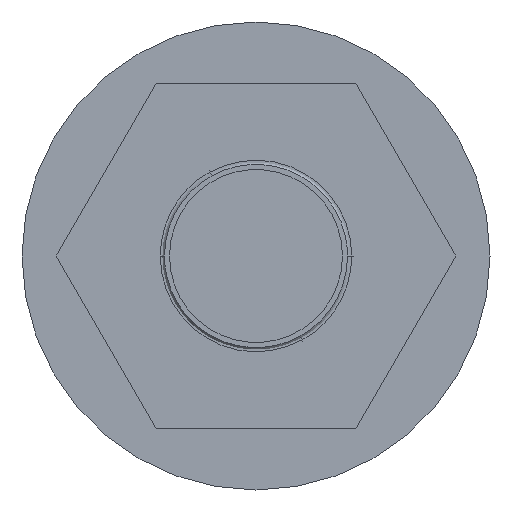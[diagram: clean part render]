
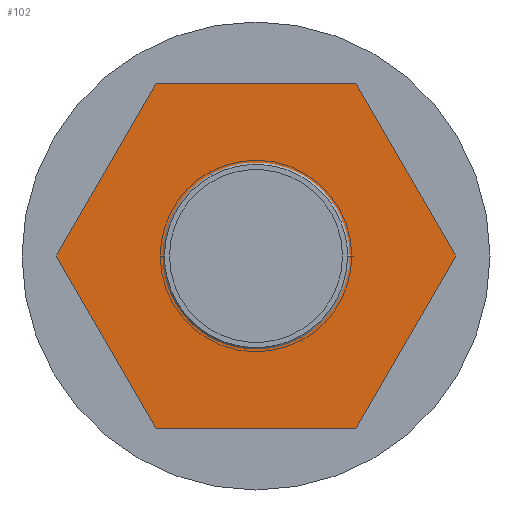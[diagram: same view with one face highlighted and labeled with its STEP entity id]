
A CAD part, front view. The second image highlights one B-rep face of the part: STEP entity #102.
In plain terms, the highlighted planar face has unit normal (0, -1, 0).
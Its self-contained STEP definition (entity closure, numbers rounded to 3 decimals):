
#102=ADVANCED_FACE('Pad.2',(#232,#233),#234,.T.);
#232=FACE_OUTER_BOUND('',#412,.T.);
#233=FACE_BOUND('',#413,.T.);
#234=PLANE('',#414);
#412=EDGE_LOOP('',(#594,#595,#596,#597,#598,#599));
#413=EDGE_LOOP('',(#600,#601,#602,#603));
#414=AXIS2_PLACEMENT_3D('',#604,#605,#606);
#594=ORIENTED_EDGE('',*,*,#1013,.T.);
#595=ORIENTED_EDGE('',*,*,#1014,.T.);
#596=ORIENTED_EDGE('',*,*,#1015,.T.);
#597=ORIENTED_EDGE('',*,*,#1016,.T.);
#598=ORIENTED_EDGE('',*,*,#1017,.T.);
#599=ORIENTED_EDGE('',*,*,#1018,.T.);
#600=ORIENTED_EDGE('',*,*,#1011,.F.);
#601=ORIENTED_EDGE('',*,*,#1006,.F.);
#602=ORIENTED_EDGE('',*,*,#1004,.F.);
#603=ORIENTED_EDGE('',*,*,#998,.F.);
#604=CARTESIAN_POINT('',(0.0,-58.,0.0));
#605=DIRECTION('',(0.0,-1.0,0.0));
#606=DIRECTION('',(1.0,0.0,0.0));
#998=EDGE_CURVE('',#1167,#1170,#1171,.T.);
#1004=EDGE_CURVE('',#1170,#1177,#1180,.T.);
#1006=EDGE_CURVE('',#1177,#1182,#1183,.T.);
#1011=EDGE_CURVE('',#1182,#1167,#1189,.T.);
#1013=EDGE_CURVE('',#1191,#1192,#1193,.T.);
#1014=EDGE_CURVE('',#1192,#1194,#1195,.T.);
#1015=EDGE_CURVE('',#1194,#1196,#1197,.F.);
#1016=EDGE_CURVE('',#1196,#1198,#1199,.F.);
#1017=EDGE_CURVE('',#1198,#1200,#1201,.F.);
#1018=EDGE_CURVE('',#1200,#1191,#1202,.T.);
#1167=VERTEX_POINT('',#1413);
#1170=VERTEX_POINT('',#1417);
#1171=CIRCLE('',#1418,4.25);
#1177=VERTEX_POINT('',#1425);
#1180=CIRCLE('',#1429,4.25);
#1182=VERTEX_POINT('',#1431);
#1183=CIRCLE('',#1432,4.25);
#1189=CIRCLE('',#1439,4.25);
#1191=VERTEX_POINT('',#1441);
#1192=VERTEX_POINT('',#1442);
#1193=LINE('',#1443,#1444);
#1194=VERTEX_POINT('',#1445);
#1195=LINE('',#1446,#1447);
#1196=VERTEX_POINT('',#1448);
#1197=LINE('',#1449,#1450);
#1198=VERTEX_POINT('',#1451);
#1199=LINE('',#1452,#1453);
#1200=VERTEX_POINT('',#1454);
#1201=LINE('',#1455,#1456);
#1202=LINE('',#1457,#1458);
#1413=CARTESIAN_POINT('',(4.25,-58.,0.));
#1417=CARTESIAN_POINT('',(-3.73,-58.,2.038));
#1418=AXIS2_PLACEMENT_3D('',#2206,#2207,#2208);
#1425=CARTESIAN_POINT('',(-4.25,-58.,0.));
#1429=AXIS2_PLACEMENT_3D('',#2217,#2218,#2219);
#1431=CARTESIAN_POINT('',(3.73,-58.,-2.038));
#1432=AXIS2_PLACEMENT_3D('',#2220,#2221,#2222);
#1439=AXIS2_PLACEMENT_3D('',#2230,#2231,#2232);
#1441=CARTESIAN_POINT('',(9.815,-58.,0.));
#1442=CARTESIAN_POINT('',(4.907,-58.,8.5));
#1443=CARTESIAN_POINT('',(7.361,-58.,4.25));
#1444=VECTOR('',#2233,1.0);
#1445=CARTESIAN_POINT('',(-4.907,-58.,8.5));
#1446=CARTESIAN_POINT('',(0.,-58.,8.5));
#1447=VECTOR('',#2234,1.0);
#1448=CARTESIAN_POINT('',(-9.815,-58.,0.));
#1449=CARTESIAN_POINT('',(-7.361,-58.,4.25));
#1450=VECTOR('',#2235,1.0);
#1451=CARTESIAN_POINT('',(-4.907,-58.,-8.5));
#1452=CARTESIAN_POINT('',(-7.361,-58.,-4.25));
#1453=VECTOR('',#2236,1.0);
#1454=CARTESIAN_POINT('',(4.907,-58.,-8.5));
#1455=CARTESIAN_POINT('',(0.0,-58.,-8.5));
#1456=VECTOR('',#2237,1.0);
#1457=CARTESIAN_POINT('',(7.361,-58.,-4.25));
#1458=VECTOR('',#2238,1.0);
#2206=CARTESIAN_POINT('',(0.,-58.,0.));
#2207=DIRECTION('',(0.0,-1.0,0.0));
#2208=DIRECTION('',(1.0,0.0,0.0));
#2217=CARTESIAN_POINT('',(0.,-58.,0.));
#2218=DIRECTION('',(0.0,-1.0,0.0));
#2219=DIRECTION('',(1.0,0.0,0.0));
#2220=CARTESIAN_POINT('',(0.,-58.,0.));
#2221=DIRECTION('',(0.0,-1.0,0.0));
#2222=DIRECTION('',(1.0,0.0,0.0));
#2230=CARTESIAN_POINT('',(0.,-58.,0.));
#2231=DIRECTION('',(0.0,-1.0,0.0));
#2232=DIRECTION('',(1.0,0.0,0.0));
#2233=DIRECTION('',(-0.5,0.0,0.866));
#2234=DIRECTION('',(-1.0,0.0,0.0));
#2235=DIRECTION('',(0.5,0.0,0.866));
#2236=DIRECTION('',(-0.5,0.0,0.866));
#2237=DIRECTION('',(-1.0,0.0,0.0));
#2238=DIRECTION('',(0.5,0.0,0.866));
